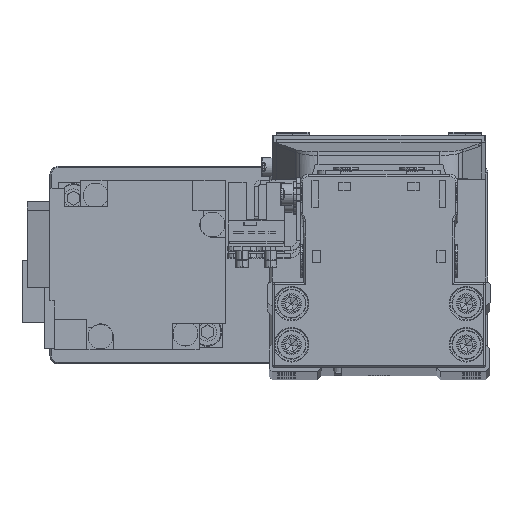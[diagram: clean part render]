
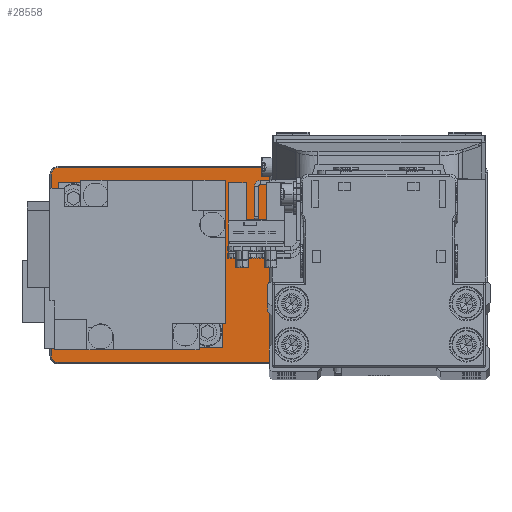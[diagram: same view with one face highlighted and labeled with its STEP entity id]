
A CAD part, top view. The second image highlights one B-rep face of the part: STEP entity #28558.
In plain terms, the highlighted planar face has unit normal (0, 0, 1).
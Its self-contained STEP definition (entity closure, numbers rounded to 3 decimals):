
#1254 = VERTEX_POINT ( 'NONE', #38860 ) ;
#1303 = CARTESIAN_POINT ( 'NONE',  ( -28., 0., 5. ) ) ;
#1427 = CIRCLE ( 'NONE', #24534, 1.7 ) ;
#1641 = DIRECTION ( 'NONE',  ( 1., 0., 0. ) ) ;
#1716 = CIRCLE ( 'NONE', #24829, 12.8 ) ;
#1829 = AXIS2_PLACEMENT_3D ( 'NONE', #9001, #21629, #34302 ) ;
#2532 = LINE ( 'NONE', #15131, #3866 ) ;
#2788 = ORIENTED_EDGE ( 'NONE', *, *, #38425, .T. ) ;
#3462 = CARTESIAN_POINT ( 'NONE',  ( -50., -22., 5. ) ) ;
#3507 = DIRECTION ( 'NONE',  ( 1., 0., 0. ) ) ;
#3866 = VECTOR ( 'NONE', #27779, 1000. ) ;
#4998 = CIRCLE ( 'NONE', #28149, 1.7 ) ;
#5191 = CIRCLE ( 'NONE', #28348, 1.7 ) ;
#6297 = LINE ( 'NONE', #18905, #34450 ) ;
#6413 = CARTESIAN_POINT ( 'NONE',  ( 51.7, 22., 5. ) ) ;
#6820 = CARTESIAN_POINT ( 'NONE',  ( 51.7, -22., 5. ) ) ;
#6823 = DIRECTION ( 'NONE',  ( -1., 0., 0. ) ) ;
#6914 = ORIENTED_EDGE ( 'NONE', *, *, #33143, .T. ) ;
#6988 = EDGE_CURVE ( 'NONE', #37130, #15050, #2532, .T. ) ;
#8125 = EDGE_CURVE ( 'NONE', #32536, #36989, #6297, .T. ) ;
#8584 = CIRCLE ( 'NONE', #31745, 10.3 ) ;
#9001 = CARTESIAN_POINT ( 'NONE',  ( 0., 0., 5. ) ) ;
#9287 = AXIS2_PLACEMENT_3D ( 'NONE', #3462, #16053, #28700 ) ;
#9327 = DIRECTION ( 'NONE',  ( 0., 0., -1. ) ) ;
#9398 = ORIENTED_EDGE ( 'NONE', *, *, #29934, .T. ) ;
#10036 = VERTEX_POINT ( 'NONE', #19896 ) ;
#10709 = VERTEX_POINT ( 'NONE', #38217 ) ;
#11062 = DIRECTION ( 'NONE',  ( 0., 0., -1. ) ) ;
#11182 = DIRECTION ( 'NONE',  ( 1., 0., 0. ) ) ;
#11248 = CARTESIAN_POINT ( 'NONE',  ( 17.2, 0., 5. ) ) ;
#11760 = DIRECTION ( 'NONE',  ( 0., 0., 1. ) ) ;
#12031 = CARTESIAN_POINT ( 'NONE',  ( -51.7, -22., 5. ) ) ;
#12120 = FACE_BOUND ( 'NONE', #31897, .T. ) ;
#12372 = EDGE_CURVE ( 'NONE', #10036, #1254, #32762, .T. ) ;
#12501 = VECTOR ( 'NONE', #6823, 1000. ) ;
#12579 = EDGE_CURVE ( 'NONE', #13471, #40904, #1716, .T. ) ;
#13042 = ORIENTED_EDGE ( 'NONE', *, *, #12579, .T. ) ;
#13427 = EDGE_LOOP ( 'NONE', ( #13042, #38892 ) ) ;
#13471 = VERTEX_POINT ( 'NONE', #16590 ) ;
#13895 = DIRECTION ( 'NONE',  ( 0., 0., -1. ) ) ;
#14072 = CARTESIAN_POINT ( 'NONE',  ( 50., 22., 5. ) ) ;
#14152 = EDGE_CURVE ( 'NONE', #27387, #37130, #5191, .T. ) ;
#14892 = AXIS2_PLACEMENT_3D ( 'NONE', #1303, #13895, #26535 ) ;
#14950 = ORIENTED_EDGE ( 'NONE', *, *, #34853, .T. ) ;
#15050 = VERTEX_POINT ( 'NONE', #6413 ) ;
#15131 = CARTESIAN_POINT ( 'NONE',  ( 51.7, 22., 5. ) ) ;
#15775 = EDGE_CURVE ( 'NONE', #1254, #10036, #8584, .T. ) ;
#16053 = DIRECTION ( 'NONE',  ( 0., 0., 1. ) ) ;
#16590 = CARTESIAN_POINT ( 'NONE',  ( 42.8, 0., 5. ) ) ;
#17342 = CARTESIAN_POINT ( 'NONE',  ( -50., 22., 5. ) ) ;
#18905 = CARTESIAN_POINT ( 'NONE',  ( -51.7, -22., 5. ) ) ;
#18998 = ORIENTED_EDGE ( 'NONE', *, *, #8125, .T. ) ;
#19199 = LINE ( 'NONE', #31873, #28364 ) ;
#19263 = AXIS2_PLACEMENT_3D ( 'NONE', #39452, #11062, #23700 ) ;
#19896 = CARTESIAN_POINT ( 'NONE',  ( -17.7, 0., 5. ) ) ;
#20289 = ORIENTED_EDGE ( 'NONE', *, *, #6988, .T. ) ;
#21629 = DIRECTION ( 'NONE',  ( 0., 0., 1. ) ) ;
#21945 = DIRECTION ( 'NONE',  ( 1., 0., 0. ) ) ;
#21949 = EDGE_LOOP ( 'NONE', ( #9398, #24628, #20289, #6914, #2788, #14950, #18998, #35280 ) ) ;
#22576 = LINE ( 'NONE', #35216, #12501 ) ;
#23700 = DIRECTION ( 'NONE',  ( 1., 0., 0. ) ) ;
#24410 = DIRECTION ( 'NONE',  ( 1., 0., 0. ) ) ;
#24534 = AXIS2_PLACEMENT_3D ( 'NONE', #14072, #26709, #39349 ) ;
#24628 = ORIENTED_EDGE ( 'NONE', *, *, #14152, .T. ) ;
#24754 = FACE_OUTER_BOUND ( 'NONE', #21949, .T. ) ;
#24829 = AXIS2_PLACEMENT_3D ( 'NONE', #37719, #9327, #21945 ) ;
#24930 = VERTEX_POINT ( 'NONE', #39826 ) ;
#25388 = CARTESIAN_POINT ( 'NONE',  ( -51.7, 22., 5. ) ) ;
#26535 = DIRECTION ( 'NONE',  ( 1., 0., 0. ) ) ;
#26597 = CARTESIAN_POINT ( 'NONE',  ( 50., 23.7, 5. ) ) ;
#26709 = DIRECTION ( 'NONE',  ( 0., 0., 1. ) ) ;
#26860 = ORIENTED_EDGE ( 'NONE', *, *, #12372, .T. ) ;
#26919 = CARTESIAN_POINT ( 'NONE',  ( -28., 0., 5. ) ) ;
#27159 = CIRCLE ( 'NONE', #9287, 1.7 ) ;
#27387 = VERTEX_POINT ( 'NONE', #35312 ) ;
#27779 = DIRECTION ( 'NONE',  ( 0., 1., 0. ) ) ;
#28149 = AXIS2_PLACEMENT_3D ( 'NONE', #17342, #29989, #1641 ) ;
#28348 = AXIS2_PLACEMENT_3D ( 'NONE', #40151, #11760, #24410 ) ;
#28364 = VECTOR ( 'NONE', #3507, 1000. ) ;
#28558 = ADVANCED_FACE ( 'NONE', ( #40523, #12120, #24754 ), #37382, .T. ) ;
#28700 = DIRECTION ( 'NONE',  ( 1., 0., 0. ) ) ;
#29934 = EDGE_CURVE ( 'NONE', #24930, #27387, #19199, .T. ) ;
#29989 = DIRECTION ( 'NONE',  ( 0., 0., 1. ) ) ;
#31575 = DIRECTION ( 'NONE',  ( 0., -1., 0. ) ) ;
#31745 = AXIS2_PLACEMENT_3D ( 'NONE', #26919, #39569, #11182 ) ;
#31873 = CARTESIAN_POINT ( 'NONE',  ( 50., -23.7, 5. ) ) ;
#31897 = EDGE_LOOP ( 'NONE', ( #26860, #33537 ) ) ;
#32536 = VERTEX_POINT ( 'NONE', #25388 ) ;
#32556 = EDGE_CURVE ( 'NONE', #36989, #24930, #27159, .T. ) ;
#32762 = CIRCLE ( 'NONE', #14892, 10.3 ) ;
#33143 = EDGE_CURVE ( 'NONE', #15050, #36344, #1427, .T. ) ;
#33537 = ORIENTED_EDGE ( 'NONE', *, *, #15775, .T. ) ;
#34018 = EDGE_CURVE ( 'NONE', #40904, #13471, #37154, .T. ) ;
#34302 = DIRECTION ( 'NONE',  ( 1., 0., 0. ) ) ;
#34450 = VECTOR ( 'NONE', #31575, 1000. ) ;
#34853 = EDGE_CURVE ( 'NONE', #10709, #32536, #4998, .T. ) ;
#35216 = CARTESIAN_POINT ( 'NONE',  ( -50., 23.7, 5. ) ) ;
#35280 = ORIENTED_EDGE ( 'NONE', *, *, #32556, .T. ) ;
#35312 = CARTESIAN_POINT ( 'NONE',  ( 50., -23.7, 5. ) ) ;
#36344 = VERTEX_POINT ( 'NONE', #26597 ) ;
#36989 = VERTEX_POINT ( 'NONE', #12031 ) ;
#37130 = VERTEX_POINT ( 'NONE', #6820 ) ;
#37154 = CIRCLE ( 'NONE', #19263, 12.8 ) ;
#37382 = PLANE ( 'NONE',  #1829 ) ;
#37719 = CARTESIAN_POINT ( 'NONE',  ( 30., 0., 5. ) ) ;
#38217 = CARTESIAN_POINT ( 'NONE',  ( -50., 23.7, 5. ) ) ;
#38425 = EDGE_CURVE ( 'NONE', #36344, #10709, #22576, .T. ) ;
#38860 = CARTESIAN_POINT ( 'NONE',  ( -38.3, 0., 5. ) ) ;
#38892 = ORIENTED_EDGE ( 'NONE', *, *, #34018, .T. ) ;
#39349 = DIRECTION ( 'NONE',  ( 1., 0., 0. ) ) ;
#39452 = CARTESIAN_POINT ( 'NONE',  ( 30., 0., 5. ) ) ;
#39569 = DIRECTION ( 'NONE',  ( 0., 0., -1. ) ) ;
#39826 = CARTESIAN_POINT ( 'NONE',  ( -50., -23.7, 5. ) ) ;
#40151 = CARTESIAN_POINT ( 'NONE',  ( 50., -22., 5. ) ) ;
#40523 = FACE_BOUND ( 'NONE', #13427, .T. ) ;
#40904 = VERTEX_POINT ( 'NONE', #11248 ) ;
